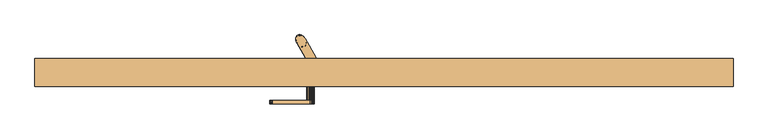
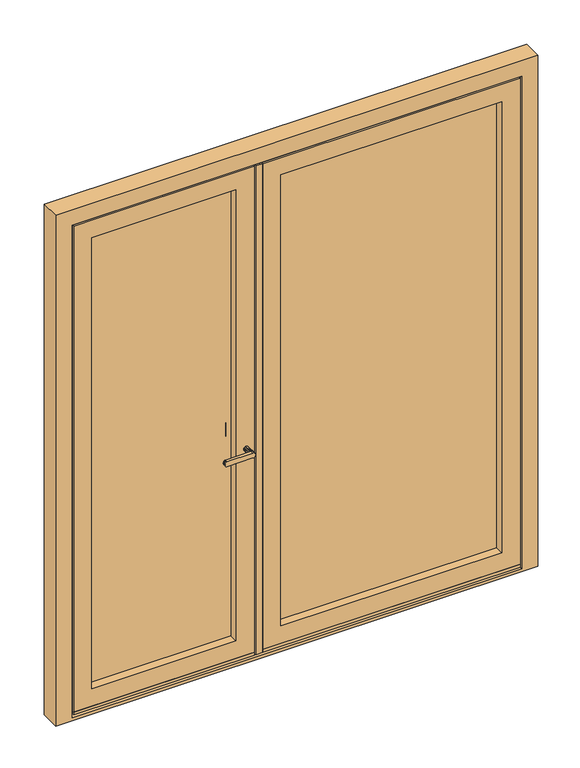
"""IFC4 building model written with IfcOpenShell, lengths in millimetres: door geometry, SAS ENTREE RDC 2x90."""

from ifc_helpers import new_model, si_unit, frame, origin, place, context, project, spatial, polyline, outline, extrude, faceted_brep, source, transform, mapped, element, save


def door_05f745db(model_context):
    return source(origin(), model_context, "Body", "SolidModel", [
        extrude(outline(polyline([(676.0, 206.1225433), (676.0, 214.4225433), (708.0, 214.4225433), (708.0, 206.1225433), (676.0, 206.1225433)])), frame((0.0, 0.0, 176.0160203), z_axis=(0.0, 0.0, 1.0), x_axis=(1.0, 0.0, 0.0)), (0.0, 0.0, 1.0), 2390.9839797),
        extrude(outline(polyline([(599.0, 285.1225433), (599.0, 247.1225433), (-97.0, 247.1225433), (-97.0, 285.1225433), (599.0, 285.1225433)])), frame((0.0, 0.0, 260.0), z_axis=(0.0, 0.0, 1.0), x_axis=(1.0, 0.0, 0.0)), (0.0, 0.0, 1.0), 2237.0),
        faceted_brep([(596.8067219, 372.0896621, 2543.5), (593.3206353, 371.920261, 2543.5), (590.2202405, 370.7551217, 2543.5), (587.6610041, 368.6526691, 2543.5), (585.7712569, 365.718329, 2543.5), (584.6457588, 362.0992414, 2543.5), (584.3409469, 357.9768826, 2543.5), (584.8721059, 353.5579647, 2543.5), (586.212601, 349.0640708, 2543.5), (588.2952144, 344.7205434, 2543.5), (591.0155151, 340.7451853, 2543.5), (594.2370958, 337.3373374, 2543.5), (597.7984131, 334.6678835, 2543.5), (601.5208876, 332.8706811, 2543.5), (605.2178589, 332.0358494, 2543.5), (608.7039455, 332.2052505, 2543.5), (611.8043404, 333.3703898, 2543.5), (614.3635768, 335.4728424, 2543.5), (616.2533239, 338.4071825, 2543.5), (617.3788221, 342.0262701, 2543.5), (617.6836339, 346.148629, 2543.5), (617.152475, 350.5675469, 2543.5), (615.8119798, 355.0614408, 2543.5), (613.7293665, 359.4049681, 2543.5), (611.0090658, 363.3803262, 2543.5), (607.787485, 366.7881741, 2543.5), (604.2261678, 369.4576281, 2543.5), (600.5036932, 371.2548305, 2543.5), (614.3635768, 335.4728424, 213.5), (611.8043404, 333.3703898, 213.5), (608.7039455, 332.2052505, 213.5), (605.2178589, 332.0358494, 213.5), (601.5208876, 332.8706811, 213.5), (597.7984131, 334.6678835, 213.5), (594.2370958, 337.3373374, 213.5), (591.0155151, 340.7451853, 213.5), (588.2952144, 344.7205434, 213.5), (586.212601, 349.0640708, 213.5), (584.8721059, 353.5579647, 213.5), (584.3409469, 357.9768826, 213.5), (584.6457588, 362.0992414, 213.5), (585.7712569, 365.718329, 213.5), (587.6610041, 368.6526691, 213.5), (590.2202405, 370.7551217, 213.5), (593.3206353, 371.920261, 213.5), (596.8067219, 372.0896621, 213.5), (600.5036932, 371.2548305, 213.5), (604.2261678, 369.4576281, 213.5), (607.787485, 366.7881741, 213.5), (611.0090658, 363.3803262, 213.5), (613.7293665, 359.4049681, 213.5), (615.8119798, 355.0614408, 213.5), (617.152475, 350.5675469, 213.5), (617.6836339, 346.148629, 213.5), (617.3788221, 342.0262701, 213.5), (616.2533239, 338.4071825, 213.5), (613.7293665, 359.4049681, 2379.5727096), (598.640293, 371.7963268, 2451.5235539), (613.7293665, 359.4049681, 2461.5363589), (584.3339163, 358.7363125, 2407.8004884), (588.2952144, 344.7205434, 2461.5363535), (584.3996677, 356.8385466, 2472.0238283), (586.6256704, 367.2811894, 2465.9534284), (588.8642379, 369.8155211, 2391.1124582), (613.7293665, 359.4049681, 295.4636493), (587.1783635, 368.0666895, 278.3729614), (591.7119625, 371.4596562, 365.8875345), (595.0260396, 372.1311474, 291.0465648), (605.1826374, 368.8376058, 284.9761741), (603.5720008, 369.8434294, 349.1995188), (585.1058254, 363.9751062, 1479.7028575), (588.2952144, 344.7205434, 1451.3125), (588.2952144, 344.7205434, 1524.125), (591.7615024, 371.4781272, 1649.1392833), (584.4253827, 360.5186738, 1628.7148132), (584.334078, 358.7550105, 1715.8508426), (584.3888278, 360.088523, 315.5847591), (613.7293665, 359.4049681, 2297.6090603), (600.6213593, 371.2126152, 2365.8602076), (603.0202966, 370.1452212, 664.3001), (599.7309419, 371.5084991, 567.5308419), (590.2202405, 370.7551217, 645.7917434), (588.2952144, 344.7205434, 295.4636465), (606.5286319, 367.8475198, 411.1603252), (613.7293665, 359.4049681, 459.3909315), (613.7293665, 359.4049681, 377.4272904), (601.0673114, 371.0440314, 465.8272972), (613.7293665, 359.4049681, 541.3545808), (590.2202405, 370.7551217, 2124.9273045), (584.3775266, 359.9267232, 2110.7348128), (584.6855082, 362.3072796, 2193.7643232), (603.7950843, 369.7152981, 2170.2863632), (613.7293665, 359.4049681, 2215.645411), (613.7293665, 359.4049681, 2151.9840606), (613.7293665, 359.4049681, 2124.9272924), (585.3520852, 364.7024538, 475.9812415), (584.6591139, 354.694127, 482.8464175), (584.334694, 358.303651, 537.3427374), (584.4253999, 356.5280307, 418.4091473), (588.2952144, 344.7205434, 377.4272929), (588.2952144, 344.7205434, 459.3909394), (603.2120449, 370.0427553, 1992.2156081), (592.2675412, 371.6504879, 2031.727744), (602.3734891, 370.4719828, 2079.5682442), (588.2952144, 344.7205434, 2379.5727071), (584.5841108, 355.1778386, 2345.8396982), (584.3335705, 358.4309809, 995.8788217), (588.2952144, 344.7205434, 941.625), (588.2952144, 344.7205434, 951.1728123), (588.2952144, 344.7205434, 1014.4375), (591.9540086, 371.54716, 2207.6010696), (597.8960795, 371.9447388, 2281.0187972), (589.3511741, 370.1914448, 2319.1105363), (613.7293665, 359.4049681, 1197.0637588), (602.7759529, 370.2720743, 1156.0819682), (602.9934599, 370.1593571, 1251.0803702), (584.582294, 361.7342949, 2024.6613669), (588.2952144, 344.7205434, 2088.3227071), (588.2952144, 344.7205434, 2297.6090606), (584.5465078, 361.5057369, 2291.1727426), (588.2952144, 344.7205434, 2215.6454141), (607.3019684, 367.212777, 2256.6272447), (591.3661785, 371.3224467, 459.5869607), (586.5908672, 367.2268264, 412.2815165), (587.6724492, 368.6656057, 559.7384316), (584.3441166, 359.2428061, 623.1372716), (589.6013487, 370.3669845, 806.8664485), (586.2041252, 366.5752593, 755.976985), (584.8398858, 363.0103188, 824.0592485), (588.2952144, 344.7205434, 605.0159394), (602.2571469, 370.5276858, 1583.8584055), (599.2993178, 371.632295, 1483.9365465), (590.4633446, 370.8909961, 1498.9341304), (600.1446668, 371.3777824, 1811.5402594), (613.7293665, 359.4049681, 1779.5637567), (603.1348072, 370.0843389, 1712.0756458), (602.3989472, 370.4596693, 1910.3982928), (591.5594137, 371.4009279, 1950.2220322), (592.9408779, 371.836168, 1884.1615603), (589.5092907, 370.3037066, 1742.5625207), (584.4479081, 360.7395876, 1930.3440776), (613.7293665, 359.4049681, 1524.9183396), (613.7293665, 359.4049681, 1160.0625), (613.7293665, 359.4049681, 1115.1001095), (584.4003028, 356.8302377, 1342.0937793), (584.5346507, 355.536294, 1404.6915272), (585.8787233, 365.9462156, 1391.5634429), (604.9660861, 368.9839076, 1647.3446923), (584.5145473, 355.6940566, 764.7534527), (590.4933488, 370.9071554, 1190.1642517), (589.643066, 370.3951665, 1279.0274359), (591.3305399, 371.3074634, 1365.7002658), (586.2932073, 366.733653, 1330.1284283), (584.4430956, 360.6944514, 1134.9042363), (588.2952144, 344.7205434, 1160.0625), (584.4834985, 361.0462147, 1228.6146246), (601.7106677, 370.7768786, 922.2779045), (589.2705607, 370.1324225, 868.8125416), (587.2668209, 368.1803563, 928.6050736), (590.0899506, 370.6785792, 985.6282314), (586.2866374, 366.7221533, 1049.4347346), (602.3446545, 370.4858754, 1008.143153), (613.7293665, 359.4049681, 1033.1364602), (613.7293665, 359.4049681, 1014.4375), (613.7293665, 359.4049681, 951.1728109), (613.7293665, 359.4049681, 705.2818794), (613.7293665, 359.4049681, 668.6772929), (613.7293665, 359.4049681, 623.3182301), (604.6775207, 369.1734382, 1081.8660814), (591.9516011, 371.5463233, 1101.7395977), (601.0493042, 371.0511019, 782.5539675), (604.2619327, 369.4356496, 851.8765762), (613.7293665, 359.4049681, 787.2455287), (605.7364225, 368.447326, 725.8955845), (608.5057275, 366.121045, 582.3364519), (613.7293665, 359.4049681, 605.0159394), (594.191781, 372.0607339, 718.1476683), (587.3971082, 368.34245, 698.6945405), (584.3402223, 358.0048903, 699.954405), (588.2952144, 344.7205434, 796.0), (588.2952144, 344.7205434, 868.8125), (588.2952144, 344.7205434, 668.6772929), (588.2952144, 344.7205434, 732.3386465), (584.3486499, 359.371308, 905.2187896), (588.2952144, 344.7205434, 869.2091683), (584.4760351, 356.0220371, 1060.2383949), (588.2952144, 344.7205434, 1033.1364563), (588.2952144, 344.7205434, 1087.25), (588.2952144, 344.7205434, 705.2818803), (588.2952144, 344.7205434, 787.2455243), (613.7293665, 359.4049681, 869.2091698), (592.8630267, 371.8171333, 1041.9282644), (599.8249333, 371.4798358, 1347.9657088), (613.7293665, 359.4049681, 1279.0274081), (588.2952144, 344.7205434, 1305.6875), (584.429341, 360.5593943, 1287.1892336), (601.2978793, 370.9515414, 1416.2157627), (613.7293665, 359.4049681, 1360.9910492), (588.2921626, 369.3088022, 1558.5720278), (613.7293665, 359.4049681, 1524.125), (613.7293665, 359.4049681, 1451.3125), (613.7293665, 359.4049681, 1442.9546903), (591.4305867, 371.3491208, 1436.780453), (584.3349235, 358.2847761, 1547.7136117), (588.2952144, 344.7205434, 1596.9375), (588.2952144, 344.7205434, 1378.5), (588.2952144, 344.7205434, 1197.0637524), (588.2952144, 344.7205434, 1232.875), (588.2952144, 344.7205434, 1360.9910486), (588.2952144, 344.7205434, 1279.0273964), (613.7293665, 359.4049681, 1742.5625), (613.7293665, 359.4049681, 1715.9024045), (613.7293665, 359.4049681, 1588.5796918), (586.5281466, 367.1271988, 1849.4762939), (584.5681045, 361.6459468, 1786.6742918), (613.7293665, 359.4049681, 1970.5478216), (613.7293665, 359.4049681, 1843.225109), (584.5008055, 355.8068166, 1851.7812671), (588.2952144, 344.7205434, 1669.75), (588.2952144, 344.7205434, 1715.9024), (588.2952144, 344.7205434, 1742.5625), (588.2952144, 344.7205434, 1815.375), (613.7293665, 359.4049681, 1305.6875), (613.7293665, 359.4049681, 941.625), (613.7293665, 359.4049681, 1232.875), (588.2952144, 344.7205434, 1442.9546926), (588.2952144, 344.7205434, 1524.9183365), (588.2952144, 344.7205434, 1588.579691), (613.7293665, 359.4049681, 1087.25), (613.7293665, 359.4049681, 1378.5), (587.8833985, 368.896825, 2258.8109284), (588.2952144, 344.7205434, 1779.5637545), (588.2952144, 344.7205434, 1961.0), (588.2952144, 344.7205434, 2151.9840606), (613.7293665, 359.4049681, 2034.2091739), (613.7293665, 359.4049681, 2088.3227071), (613.7293665, 359.4049681, 1961.0), (613.7293665, 359.4049681, 1888.1875), (588.2952144, 344.7205434, 1970.5478179), (588.2952144, 344.7205434, 2034.2091724), (588.2952144, 344.7205434, 1888.1875), (588.2952144, 344.7205434, 1843.2251089), (588.2952144, 344.7205434, 2124.9272941), (588.2952144, 344.7205434, 541.3545859), (613.7293665, 359.4049681, 732.3386465), (588.2952144, 344.7205434, 623.3182281), (613.7293665, 359.4049681, 868.8125), (613.7293665, 359.4049681, 796.0), (588.2952144, 344.7205434, 1115.1001084), (613.7293665, 359.4049681, 1669.75), (613.7293665, 359.4049681, 1596.9375), (613.7293665, 359.4049681, 1815.375), (603.3842879, 332.3291847, 2451.5235539), (617.6906646, 345.3891991, 2407.8004884), (617.6249132, 347.286965, 2472.0238283), (615.3989104, 336.8443221, 2465.9534284), (613.160343, 334.3099905, 2391.1124582), (614.8462174, 336.058822, 278.3729614), (610.3126184, 332.6658554, 365.8875345), (606.9985412, 331.9943641, 291.0465648), (596.8419435, 335.2879058, 284.9761741), (598.4525801, 334.2820822, 349.1995188), (616.9187554, 340.1504053, 1479.7028575), (610.2630784, 332.6473843, 1649.1392833), (617.5991982, 343.6068377, 1628.7148132), (617.6905029, 345.370501, 1715.8508426), (617.6357531, 344.0369885, 315.5847591), (601.4032216, 332.9128963, 2365.8602076), (599.0042843, 333.9802903, 664.3001), (602.2936389, 332.6170124, 567.5308419), (611.8043404, 333.3703898, 645.7917434), (595.495949, 336.2779917, 411.1603252), (600.9572695, 333.0814801, 465.8272972), (611.8043404, 333.3703898, 2124.9273045), (617.6470542, 344.1987883, 2110.7348128), (617.3390727, 341.8182319, 2193.7643232), (598.2294965, 334.4102134, 2170.2863632), (616.6724957, 339.4230578, 475.9812415), (617.3654669, 349.4313845, 482.8464175), (617.6898869, 345.8218605, 537.3427374), (617.5991809, 347.5974809, 418.4091473), (598.812536, 334.0827562, 1992.2156081), (609.7570397, 332.4750236, 2031.727744), (599.6510917, 333.6535288, 2079.5682442), (617.44047, 348.9476729, 2345.8396982), (617.6910103, 345.6945306, 995.8788217), (610.0705722, 332.5783516, 2207.6010696), (604.1285014, 332.1807727, 2281.0187972), (612.6734067, 333.9340667, 2319.1105363), (599.248628, 333.8534372, 1156.0819682), (599.0311209, 333.9661544, 1251.0803702), (617.4422869, 342.3912167, 2024.6613669), (617.478073, 342.6197746, 2291.1727426), (594.7226124, 336.9127345, 2256.6272447), (610.6584023, 332.8030648, 459.5869607), (615.4337137, 336.8986852, 412.2815165), (614.3521316, 335.4599058, 559.7384316), (617.6804643, 344.8827054, 623.1372716), (612.4232322, 333.758527, 806.8664485), (615.8204557, 337.5502522, 755.976985), (617.1846951, 341.1151927, 824.0592485), (599.7674339, 333.5978257, 1583.8584055), (602.7252631, 332.4932165, 1483.9365465), (611.5612363, 333.2345154, 1498.9341304), (601.8799141, 332.7477292, 1811.5402594), (598.8897737, 334.0411727, 1712.0756458), (599.6256337, 333.6658422, 1910.3982928), (610.4651671, 332.7245836, 1950.2220322), (609.083703, 332.2893435, 1884.1615603), (612.5152902, 333.8218049, 1742.5625207), (617.5766727, 343.385924, 1930.3440776), (617.624278, 347.2952738, 1342.0937793), (617.4899302, 348.5892175, 1404.6915272), (616.1458576, 338.179296, 1391.5634429), (597.0584947, 335.1416039, 1647.3446923), (617.5100336, 348.4314549, 764.7534527), (611.531232, 333.2183561, 1190.1642517), (612.3815149, 333.730345, 1279.0274359), (610.694041, 332.8180482, 1365.7002658), (615.7313735, 337.3918586, 1330.1284283), (617.5814852, 343.4310601, 1134.9042363), (617.5410824, 343.0792968, 1228.6146246), (600.3139132, 333.3486329, 922.2779045), (612.7540201, 333.993089, 868.8125416), (614.7577599, 335.9451552, 928.6050736), (611.9346303, 333.4469324, 985.6282314), (615.7379434, 337.4033582, 1049.4347346), (599.6799263, 333.6396362, 1008.143153), (617.675931, 344.7542035, 905.2187896), (597.3470602, 334.9520734, 1081.8660814), (610.0729798, 332.5791883, 1101.7395977), (600.9752767, 333.0744096, 782.5539675), (597.7626481, 334.689862, 851.8765762), (596.2881584, 335.6781855, 725.8955845), (593.5188534, 338.0044665, 582.3364519), (607.8327999, 332.0647776, 718.1476683), (614.6274727, 335.7830615, 698.6945405), (617.6843585, 346.1206212, 699.954405), (617.5485457, 348.1034745, 1060.2383949), (609.1615542, 332.3083782, 1041.9282644), (602.1996476, 332.6456757, 1347.9657088), (617.5952398, 343.5661172, 1287.1892336), (600.7267015, 333.1739701, 1416.2157627), (613.7324183, 334.8167093, 1558.5720278), (610.5939942, 332.7763908, 1436.780453), (617.6896573, 345.8407354, 1547.7136117), (615.4964342, 336.9983127, 1849.4762939), (617.4564764, 342.4795647, 1786.6742918), (617.5237753, 348.318695, 1851.7812671), (614.1411824, 335.2286865, 2258.8109284)], [[[0, 1, 2, 3, 4, 5, 6, 7, 8, 9, 10, 11, 12, 13, 14, 15, 16, 17, 18, 19, 20, 21, 22, 23, 24, 25, 26, 27]], [[28, 29, 30, 31, 32, 33, 34, 35, 36, 37, 38, 39, 40, 41, 42, 43, 44, 45, 46, 47, 48, 49, 50, 51, 52, 53, 54, 55]], [[56, 57, 58]], [[59, 60, 61]], [[2, 1, 62]], [[26, 57, 27]], [[24, 58, 25]], [[61, 8, 7]], [[1, 57, 62]], [[3, 62, 4]], [[63, 62, 57]], [[64, 50, 49]], [[24, 23, 58]], [[65, 66, 67]], [[57, 0, 27]], [[48, 47, 68]], [[2, 62, 3]], [[69, 64, 68]], [[44, 67, 45]], [[59, 61, 62]], [[70, 71, 72]], [[73, 74, 75]], [[65, 40, 76]], [[77, 78, 56]], [[79, 80, 81]], [[8, 60, 9]], [[37, 36, 82]], [[83, 84, 85]], [[86, 80, 87]], [[43, 65, 67]], [[83, 85, 69]], [[58, 57, 25]], [[88, 89, 90]], [[46, 67, 68]], [[91, 92, 93, 94]], [[67, 66, 69]], [[43, 42, 65]], [[95, 96, 97]], [[98, 99, 100]], [[68, 49, 48]], [[101, 102, 103]], [[69, 68, 67]], [[5, 62, 61]], [[104, 59, 105]], [[25, 57, 26]], [[57, 1, 0]], [[7, 6, 61]], [[106, 107, 108, 109]], [[90, 110, 88]], [[67, 44, 43]], [[76, 39, 38]], [[62, 63, 59]], [[82, 76, 38]], [[40, 39, 76]], [[78, 111, 112]], [[40, 65, 41]], [[113, 114, 115]], [[46, 45, 67]], [[5, 4, 62]], [[116, 117, 89]], [[105, 118, 104]], [[119, 120, 118]], [[60, 59, 104]], [[119, 105, 112]], [[90, 120, 119]], [[63, 57, 78]], [[91, 110, 121]], [[86, 87, 84]], [[64, 69, 85]], [[122, 66, 123]], [[124, 81, 80]], [[125, 81, 124]], [[126, 127, 128]], [[76, 98, 123]], [[97, 129, 125]], [[57, 56, 78]], [[130, 131, 132]], [[133, 134, 135]], [[77, 121, 78]], [[101, 136, 137]], [[138, 137, 136]], [[73, 75, 139]], [[137, 138, 140]], [[141, 131, 130]], [[114, 113, 142, 143]], [[144, 145, 146]], [[147, 73, 135]], [[127, 148, 128]], [[115, 149, 150]], [[151, 150, 152]], [[153, 154, 155]], [[156, 157, 158]], [[159, 106, 160]], [[161, 162, 163, 164]], [[157, 126, 128]], [[79, 165, 166, 167]], [[114, 168, 169]], [[122, 124, 80]], [[92, 121, 77]], [[170, 171, 172]], [[79, 173, 165]], [[174, 167, 175, 87]], [[79, 167, 174]], [[170, 173, 176]], [[176, 79, 81]], [[157, 156, 171]], [[177, 125, 178]], [[128, 179, 180]], [[177, 176, 81]], [[127, 178, 148]], [[126, 176, 127]], [[122, 80, 86]], [[97, 124, 95]], [[125, 124, 97]], [[178, 125, 181]], [[178, 182, 148]], [[177, 127, 176]], [[161, 156, 159]], [[183, 128, 180]], [[106, 159, 158]], [[183, 180, 184, 107]], [[158, 157, 183]], [[183, 107, 106]], [[143, 168, 114]], [[128, 148, 179]], [[183, 157, 128]], [[185, 109, 186, 187]], [[153, 160, 185]], [[178, 181, 188, 182]], [[148, 182, 189, 179]], [[171, 156, 190]], [[171, 126, 157]], [[176, 126, 170]], [[191, 159, 160]], [[161, 164, 156]], [[149, 114, 169]], [[161, 168, 162]], [[114, 149, 115]], [[192, 115, 150]], [[192, 193, 115]], [[194, 144, 195]], [[196, 197, 192]], [[145, 70, 146]], [[151, 196, 192]], [[132, 70, 198]], [[131, 141, 199, 200, 201]], [[151, 202, 196]], [[169, 153, 149]], [[74, 203, 204]], [[144, 205, 145]], [[149, 155, 150]], [[169, 191, 160]], [[155, 154, 206, 207]], [[153, 155, 149]], [[144, 194, 208, 205]], [[195, 207, 209, 194]], [[146, 152, 144]], [[144, 152, 195]], [[135, 134, 210, 211]], [[73, 130, 198]], [[147, 212, 130]], [[74, 73, 198]], [[73, 139, 135]], [[133, 135, 139]], [[135, 211, 147]], [[213, 133, 139]], [[214, 139, 75]], [[136, 101, 215]], [[136, 216, 133]], [[217, 140, 213]], [[203, 198, 70]], [[74, 218, 75]], [[75, 218, 219, 220]], [[221, 217, 214]], [[192, 197, 222, 193]], [[156, 164, 223, 190]], [[115, 193, 224, 113]], [[72, 203, 70]], [[145, 71, 70]], [[202, 132, 131]], [[145, 205, 225, 71]], [[74, 204, 218]], [[74, 198, 203]], [[203, 72, 226, 227, 204]], [[168, 143, 228, 162]], [[168, 161, 191]], [[151, 152, 146]], [[195, 150, 155]], [[202, 151, 146]], [[150, 151, 192]], [[70, 202, 146]], [[202, 131, 196]], [[131, 201, 196]], [[196, 201, 229, 197]], [[150, 195, 152]], [[195, 155, 207]], [[70, 132, 202]], [[130, 132, 198]], [[119, 112, 230]], [[214, 220, 231, 221]], [[140, 232, 116]], [[140, 116, 137]], [[89, 233, 90]], [[102, 88, 103]], [[116, 89, 88]], [[233, 120, 90]], [[230, 90, 119]], [[88, 91, 103]], [[101, 103, 234]], [[103, 94, 235, 234]], [[91, 88, 110]], [[103, 91, 94]], [[121, 110, 111]], [[136, 215, 236, 237, 216]], [[102, 101, 137]], [[116, 232, 238, 239, 117]], [[138, 133, 213]], [[137, 116, 102]], [[88, 102, 116]], [[185, 160, 106]], [[153, 169, 160]], [[185, 106, 109]], [[153, 185, 187]], [[140, 217, 240]], [[217, 221, 241, 240]], [[140, 240, 232]], [[214, 217, 213]], [[139, 214, 213]], [[214, 75, 220]], [[89, 117, 242, 233]], [[61, 60, 8]], [[5, 61, 6]], [[63, 112, 105]], [[68, 64, 49]], [[46, 68, 47]], [[83, 66, 86]], [[91, 121, 92]], [[78, 121, 111]], [[100, 96, 98]], [[106, 158, 183]], [[123, 98, 95]], [[97, 96, 243]], [[76, 99, 98]], [[122, 123, 95]], [[76, 123, 66]], [[124, 122, 95]], [[66, 122, 86]], [[133, 138, 136]], [[140, 138, 213]], [[63, 105, 59]], [[118, 105, 119]], [[66, 83, 69]], [[84, 83, 86]], [[168, 191, 169]], [[161, 159, 191]], [[38, 37, 82]], [[82, 99, 76]], [[98, 96, 95]], [[243, 96, 100]], [[41, 65, 42]], [[66, 65, 76]], [[78, 112, 63]], [[230, 111, 110]], [[111, 230, 112]], [[90, 230, 110]], [[87, 80, 174]], [[79, 174, 80]], [[176, 173, 79]], [[170, 172, 173]], [[125, 177, 81]], [[173, 172, 244, 165]], [[178, 127, 177]], [[129, 97, 243]], [[125, 129, 245, 181]], [[156, 158, 159]], [[171, 190, 246, 247, 172]], [[171, 170, 126]], [[153, 187, 248, 154]], [[147, 211, 249, 250, 212]], [[212, 141, 130]], [[73, 147, 130]], [[133, 216, 251, 134]], [[101, 234, 215]], [[104, 252, 60]], [[253, 58, 254]], [[16, 15, 255]], [[12, 252, 13]], [[10, 60, 11]], [[254, 22, 21]], [[15, 252, 255]], [[17, 255, 18]], [[256, 255, 252]], [[82, 36, 35]], [[10, 9, 60]], [[257, 258, 259]], [[252, 14, 13]], [[34, 33, 260]], [[16, 255, 17]], [[261, 82, 260]], [[30, 259, 31]], [[253, 254, 255]], [[262, 200, 199]], [[263, 264, 265]], [[257, 54, 266]], [[118, 267, 104]], [[268, 269, 270]], [[22, 58, 23]], [[51, 50, 64]], [[271, 100, 99]], [[272, 269, 243]], [[29, 257, 259]], [[271, 99, 261]], [[60, 252, 11]], [[273, 274, 275]], [[32, 259, 260]], [[276, 120, 233, 242]], [[259, 258, 261]], [[29, 28, 257]], [[277, 278, 279]], [[280, 85, 84]], [[260, 35, 34]], [[281, 282, 283]], [[261, 260, 259]], [[19, 255, 254]], [[56, 253, 284]], [[11, 252, 12]], [[252, 15, 14]], [[21, 20, 254]], [[285, 223, 164, 163]], [[275, 286, 273]], [[259, 30, 29]], [[266, 53, 52]], [[255, 256, 253]], [[64, 266, 52]], [[54, 53, 266]], [[267, 287, 288]], [[54, 257, 55]], [[206, 289, 290]], [[32, 31, 259]], [[19, 18, 255]], [[291, 236, 215, 234, 235]], [[284, 77, 56]], [[292, 92, 77]], [[58, 253, 56]], [[292, 284, 288]], [[275, 92, 292]], [[256, 252, 267]], [[276, 286, 293]], [[272, 243, 100]], [[82, 261, 99]], [[294, 258, 295]], [[296, 270, 269]], [[297, 270, 296]], [[298, 299, 300]], [[266, 280, 295]], [[279, 175, 297]], [[252, 104, 267]], [[301, 302, 303]], [[304, 231, 305]], [[118, 293, 267]], [[281, 306, 307]], [[308, 307, 306]], [[263, 265, 309]], [[307, 308, 310]], [[226, 302, 301]], [[289, 206, 154, 248]], [[311, 312, 313]], [[314, 263, 305]], [[299, 315, 300]], [[290, 316, 317]], [[318, 317, 319]], [[320, 142, 321]], [[322, 323, 324]], [[325, 285, 326]], [[327, 186, 109, 108]], [[323, 328, 324]], [[268, 188, 181, 245]], [[289, 329, 330]], [[294, 296, 269]], [[120, 293, 118]], [[331, 332, 189]], [[268, 333, 188]], [[334, 245, 129, 243]], [[268, 245, 334]], [[331, 333, 335]], [[335, 268, 270]], [[323, 322, 332]], [[336, 297, 337]], [[300, 247, 246]], [[336, 335, 270]], [[299, 337, 315]], [[298, 335, 299]], [[294, 269, 272]], [[279, 296, 277]], [[297, 296, 279]], [[337, 297, 166]], [[337, 244, 315]], [[336, 299, 335]], [[327, 322, 325]], [[328, 300, 246]], [[325, 324, 285]], [[328, 246, 190, 223]], [[323, 298, 300]], [[328, 223, 285]], [[248, 329, 289]], [[300, 315, 247]], [[328, 323, 300]], [[338, 163, 162, 228]], [[320, 326, 338]], [[337, 166, 165, 244]], [[315, 244, 172, 247]], [[332, 322, 184]], [[332, 298, 323]], [[335, 298, 331]], [[339, 325, 326]], [[327, 108, 322]], [[316, 289, 330]], [[327, 329, 186]], [[289, 316, 290]], [[340, 290, 317]], [[340, 209, 290]], [[222, 311, 341]], [[342, 208, 340]], [[312, 262, 313]], [[318, 342, 340]], [[303, 262, 343]], [[302, 226, 72, 71, 225]], [[318, 344, 342]], [[330, 320, 316]], [[264, 345, 250]], [[311, 229, 312]], [[316, 321, 317]], [[330, 339, 326]], [[321, 142, 113, 224]], [[320, 321, 316]], [[311, 222, 197, 229]], [[341, 224, 193, 222]], [[313, 319, 311]], [[311, 319, 341]], [[305, 231, 220, 219]], [[263, 301, 343]], [[314, 227, 301]], [[264, 263, 343]], [[263, 309, 305]], [[304, 305, 309]], [[305, 219, 314]], [[346, 304, 309]], [[347, 309, 265]], [[238, 306, 281]], [[306, 241, 304]], [[348, 310, 346]], [[345, 343, 262]], [[264, 249, 265]], [[265, 249, 211, 210]], [[251, 348, 347]], [[340, 208, 194, 209]], [[322, 108, 107, 184]], [[290, 209, 207, 206]], [[199, 345, 262]], [[312, 200, 262]], [[344, 303, 302]], [[312, 229, 201, 200]], [[264, 250, 249]], [[264, 343, 345]], [[345, 199, 141, 212, 250]], [[329, 248, 187, 186]], [[329, 327, 339]], [[318, 319, 313]], [[341, 317, 321]], [[344, 318, 313]], [[317, 318, 340]], [[262, 344, 313]], [[344, 302, 342]], [[302, 225, 342]], [[342, 225, 205, 208]], [[317, 341, 319]], [[341, 321, 224]], [[262, 303, 344]], [[301, 303, 343]], [[292, 288, 349]], [[347, 210, 134, 251]], [[291, 235, 274]], [[310, 291, 307]], [[274, 93, 275]], [[282, 273, 283]], [[291, 274, 273]], [[93, 92, 275]], [[349, 275, 292]], [[273, 276, 283]], [[282, 281, 307]], [[283, 242, 117, 239]], [[276, 273, 286]], [[283, 276, 242]], [[293, 286, 287]], [[306, 238, 232, 240, 241]], [[283, 239, 281]], [[307, 291, 282]], [[273, 282, 291]], [[236, 291, 310]], [[308, 304, 346]], [[338, 326, 285]], [[320, 330, 326]], [[338, 285, 163]], [[320, 338, 228]], [[310, 348, 237]], [[281, 239, 238]], [[348, 251, 216, 237]], [[310, 237, 236]], [[347, 348, 346]], [[309, 347, 346]], [[347, 265, 210]], [[274, 235, 94, 93]], [[254, 58, 22]], [[19, 254, 20]], [[256, 288, 284]], [[260, 82, 35]], [[32, 260, 33]], [[271, 258, 272]], [[276, 293, 120]], [[267, 293, 287]], [[84, 278, 280]], [[285, 324, 328]], [[295, 280, 277]], [[279, 278, 87]], [[266, 85, 280]], [[294, 295, 277]], [[266, 295, 258]], [[296, 294, 277]], [[258, 294, 272]], [[304, 308, 306]], [[310, 308, 346]], [[256, 284, 253]], [[77, 284, 292]], [[258, 271, 261]], [[100, 271, 272]], [[329, 339, 330]], [[327, 325, 339]], [[52, 51, 64]], [[64, 85, 266]], [[280, 278, 277]], [[87, 278, 84]], [[55, 257, 28]], [[258, 257, 266]], [[267, 288, 256]], [[349, 287, 286]], [[287, 349, 288]], [[275, 349, 286]], [[243, 269, 334]], [[268, 334, 269]], [[335, 333, 268]], [[331, 189, 333]], [[297, 336, 270]], [[333, 189, 182, 188]], [[337, 299, 336]], [[175, 279, 87]], [[297, 175, 167, 166]], [[322, 324, 325]], [[332, 184, 180, 179, 189]], [[332, 331, 298]], [[320, 228, 143, 142]], [[314, 219, 218, 204, 227]], [[227, 226, 301]], [[263, 314, 301]], [[304, 241, 221, 231]]]),
        faceted_brep([(680.5, 214.4225433, 2578.5), (680.5, 214.4225433, 178.5), (680.5, 287.8225433, 178.5), (680.5, 287.8225433, 2578.5), (701.0, 287.8225433, 2599.0), (-199.0, 287.8225433, 2599.0), (-199.0, 287.8225433, 158.0), (701.0, 287.8225433, 158.0), (-178.5, 287.8225433, 2578.5), (-178.5, 287.8225433, 178.5), (-178.5, 214.4225433, 178.5), (-178.5, 214.4225433, 2578.5), (-167.0, 214.4225433, 2567.0), (669.0, 214.4225433, 2567.0), (669.0, 214.4225433, 190.0), (-167.0, 214.4225433, 190.0), (669.0, 206.1225433, 2567.0), (669.0, 206.1225433, 190.0), (-167.0, 206.1225433, 190.0), (-167.0, 206.1225433, 2567.0), (-81.9999695, 206.1225433, 2481.9999695), (583.9999695, 206.1225433, 2481.9999695), (583.9999695, 206.1225433, 275.0000305), (-81.9999695, 206.1225433, 275.0000305), (583.9999695, 247.1225433, 2481.9999695), (583.9999695, 247.1225433, 275.0000305), (-81.9999695, 247.1225433, 275.0000305), (-97.0, 247.1225433, 2497.0), (599.0, 247.1225433, 2497.0), (599.0, 247.1225433, 260.0), (-97.0, 247.1225433, 260.0), (-81.9999695, 247.1225433, 2481.9999695), (599.0, 285.1225433, 2497.0), (599.0, 285.1225433, 260.0), (-97.0, 285.1225433, 260.0), (-97.0, 285.1225433, 2497.0), (-80.0, 285.1225433, 2480.0), (582.0, 285.1225433, 2480.0), (582.0, 285.1225433, 277.0), (-80.0, 285.1225433, 277.0), (582.0, 296.1225433, 2480.0), (582.0, 296.1225433, 277.0), (-80.0, 296.1225433, 277.0), (-199.0, 296.1225433, 2599.0), (701.0, 296.1225433, 2599.0), (701.0, 296.1225433, 158.0), (-199.0, 296.1225433, 158.0), (-80.0, 296.1225433, 2480.0)], [[[0, 1, 2, 3]], [[4, 5, 6, 7], [8, 3, 2, 9]], [[1, 10, 9, 2]], [[0, 11, 10, 1], [12, 13, 14, 15]], [[16, 17, 14, 13]], [[17, 18, 15, 14]], [[16, 19, 18, 17], [20, 21, 22, 23]], [[24, 25, 22, 21]], [[25, 26, 23, 22]], [[27, 28, 29, 30], [24, 31, 26, 25]], [[32, 33, 29, 28]], [[33, 34, 30, 29]], [[32, 35, 34, 33], [36, 37, 38, 39]], [[40, 41, 38, 37]], [[41, 42, 39, 38]], [[43, 44, 45, 46], [40, 47, 42, 41]], [[4, 7, 45, 44]], [[7, 6, 46, 45]], [[10, 11, 8, 9]], [[18, 19, 12, 15]], [[26, 31, 20, 23]], [[34, 35, 27, 30]], [[42, 47, 36, 39]], [[6, 5, 43, 46]], [[11, 0, 3, 8]], [[19, 16, 13, 12]], [[31, 24, 21, 20]], [[35, 32, 28, 27]], [[47, 40, 37, 36]], [[5, 4, 44, 43]]]),
        faceted_brep([(642.5801281, 206.1225433, 1203.102886), (642.9886308, 206.1225433, 1200.0), (642.5801281, 206.1225433, 1196.897114), (641.3824588, 206.1225433, 1194.0056846), (639.4772421, 206.1225433, 1191.5227579), (636.9943154, 206.1225433, 1189.6175412), (634.102886, 206.1225433, 1188.4198719), (631.0, 206.1225433, 1188.0113692), (627.897114, 206.1225433, 1188.4198719), (625.0056846, 206.1225433, 1189.6175412), (622.5227579, 206.1225433, 1191.5227579), (620.6175412, 206.1225433, 1194.0056846), (619.4198719, 206.1225433, 1196.897114), (619.0113692, 206.1225433, 1200.0), (619.4198719, 206.1225433, 1203.102886), (620.6175412, 206.1225433, 1205.9943154), (622.5227579, 206.1225433, 1208.4772421), (625.0056846, 206.1225433, 1210.3824588), (627.897114, 206.1225433, 1211.5801281), (631.0, 206.1225433, 1211.9886308), (634.102886, 206.1225433, 1211.5801281), (636.9943154, 206.1225433, 1210.3824588), (639.4772421, 206.1225433, 1208.4772421), (641.3824588, 206.1225433, 1205.9943154), (631.0, 162.6226608, 1188.0113692), (627.897114, 162.6226608, 1188.4198719), (625.0056846, 162.6226608, 1189.6175412), (622.5227579, 162.6226608, 1191.5227579), (620.6175412, 162.6226608, 1194.0056846), (619.4198719, 162.6226608, 1196.897114), (619.0113692, 162.6226608, 1200.0), (619.4198719, 162.6226608, 1203.102886), (620.6175412, 162.6226608, 1205.9943154), (622.5227579, 162.6226608, 1208.4772421), (625.0056846, 162.6226608, 1210.3824588), (627.897114, 162.6226608, 1211.5801281), (631.0, 162.6226608, 1211.9886308), (631.0, 150.1225738, 1211.9886308), (634.102886, 150.1225738, 1211.5801281), (636.9943154, 150.1225738, 1210.3824588), (639.4772421, 150.1225738, 1208.4772421), (641.3824588, 150.1225738, 1205.9943154), (642.5801281, 150.1225738, 1203.102886), (642.9886308, 150.1225738, 1200.0), (642.5801281, 150.1225738, 1196.897114), (641.3824588, 150.1225738, 1194.0056846), (639.4772421, 150.1225738, 1191.5227579), (636.9943154, 150.1225738, 1189.6175412), (634.102886, 150.1225738, 1188.4198719), (631.0, 150.1225738, 1188.0113692), (509.3382074, 150.1225738, 1211.9886308), (507.7960029, 150.1225738, 1211.7582726), (506.3130644, 150.1225738, 1211.0760506), (504.9463805, 150.1225738, 1209.9681822), (503.7484721, 150.1225738, 1208.4772421), (502.765374, 150.1225738, 1206.6605264), (502.0348662, 150.1225738, 1204.5878504), (501.5850218, 150.1225738, 1202.3388658), (501.4331279, 150.1225738, 1200.0), (501.5850218, 150.1225738, 1197.6611342), (502.0348662, 150.1225738, 1195.4121496), (502.765374, 150.1225738, 1193.3394736), (503.7484721, 150.1225738, 1191.5227579), (504.9463805, 150.1225738, 1190.0318178), (506.3130644, 150.1225738, 1188.9239494), (507.7960029, 150.1225738, 1188.2417274), (509.3382074, 150.1225738, 1188.0113692), (501.5850218, 162.6226608, 1197.6611342), (501.4331279, 162.6226608, 1200.0), (501.5850218, 162.6226608, 1202.3388658), (502.0348662, 162.6226608, 1204.5878504), (502.765374, 162.6226608, 1206.6605264), (503.7484721, 162.6226608, 1208.4772421), (504.9463805, 162.6226608, 1209.9681822), (506.3130644, 162.6226608, 1211.0760506), (507.7960029, 162.6226608, 1211.7582726), (509.3382074, 162.6226608, 1211.9886308), (509.3382074, 162.6226608, 1188.0113692), (507.7960029, 162.6226608, 1188.2417274), (506.3130644, 162.6226608, 1188.9239494), (504.9463805, 162.6226608, 1190.0318178), (503.7484721, 162.6226608, 1191.5227579), (502.765374, 162.6226608, 1193.3394736), (502.0348662, 162.6226608, 1195.4121496), (509.3382074, 157.1982032, 1188.0113692), (505.6117788, 156.3726193, 1189.4269715), (503.2274983, 156.3726175, 1192.3944932), (501.773518, 156.3726173, 1196.5198842), (502.3665497, 156.3726173, 1205.6514014), (501.471193, 156.3726174, 1201.1750915), (504.323278, 156.3726173, 1209.2673369), (507.0434839, 156.3726173, 1211.4724044), (509.3382074, 156.3726173, 1211.9886308)], [[[0, 1, 2, 3, 4, 5, 6, 7, 8, 9, 10, 11, 12, 13, 14, 15, 16, 17, 18, 19, 20, 21, 22, 23]], [[7, 24, 25, 8]], [[8, 25, 26, 9]], [[11, 10, 27, 28]], [[27, 10, 9, 26]], [[12, 11, 28, 29]], [[12, 29, 30, 13]], [[13, 30, 31, 14]], [[14, 31, 32, 15]], [[17, 16, 33, 34]], [[33, 16, 15, 32]], [[18, 17, 34, 35]], [[18, 35, 36, 19]], [[19, 36, 37, 38, 20]], [[20, 38, 39, 21]], [[23, 22, 40, 41]], [[40, 22, 21, 39]], [[0, 23, 41, 42]], [[0, 42, 43, 1]], [[1, 43, 44, 2]], [[2, 44, 45, 3]], [[5, 4, 46, 47]], [[46, 4, 3, 45]], [[6, 5, 47, 48]], [[6, 48, 49, 24, 7]], [[44, 43, 42, 41, 40, 39, 38, 37, 50, 51, 52, 53, 54, 55, 56, 57, 58, 59, 60, 61, 62, 63, 64, 65, 66, 49, 48, 47, 46, 45]], [[67, 68, 69, 70, 71, 72, 73, 74, 75, 76, 36, 35, 34, 33, 32, 31, 30, 29, 28, 27, 26, 25, 24, 77, 78, 79, 80, 81, 82, 83]], [[24, 49, 66, 84, 77]], [[65, 64, 85]], [[86, 85, 63]], [[82, 87, 83]], [[80, 86, 81]], [[69, 88, 70]], [[84, 85, 78]], [[87, 60, 59]], [[89, 57, 56]], [[60, 87, 86]], [[73, 90, 91, 74]], [[62, 61, 86]], [[90, 72, 71, 88]], [[89, 87, 58]], [[79, 85, 80]], [[78, 77, 84]], [[65, 84, 66]], [[79, 78, 85]], [[87, 59, 58]], [[63, 85, 64]], [[61, 60, 86]], [[63, 62, 86]], [[81, 86, 82]], [[80, 85, 86]], [[75, 92, 76]], [[51, 50, 92]], [[88, 55, 54, 90]], [[82, 86, 87]], [[84, 65, 85]], [[67, 83, 87]], [[53, 52, 91, 90]], [[67, 87, 89]], [[88, 56, 55]], [[56, 88, 89]], [[52, 51, 91]], [[90, 54, 53]], [[68, 67, 89]], [[68, 89, 69]], [[69, 89, 88]], [[70, 88, 71]], [[51, 92, 91]], [[90, 73, 72]], [[74, 91, 75]], [[91, 92, 75]], [[89, 58, 57]], [[37, 36, 76, 92, 50]]]),
        extrude(outline(polyline([(669.0, 206.1225433), (-167.0, 206.1225433), (-167.0, 214.4225433), (669.0, 214.4225433), (669.0, 206.1225433)])), frame((0.0, 0.0, 176.0), z_axis=(0.0, 0.0, 1.0), x_axis=(1.0, 0.0, 0.0)), (0.0, 0.0, 1.0), 14.0),
        faceted_brep([(647.9561005, 300.1225433, 243.5), (614.0438995, 300.1225433, 243.5), (614.0438995, 296.1225433, 243.5), (647.9561005, 296.1225433, 243.5), (647.9561005, 300.1225433, 213.5), (614.0438995, 300.1225433, 213.5), (614.0438995, 300.1225433, 209.5), (614.0438995, 296.1225433, 209.5), (647.9561005, 296.1225433, 209.5), (647.9561005, 300.1225433, 209.5), (593.3206375, 371.9202614, 213.5), (590.2202421, 370.7551226, 213.5), (587.6610052, 368.6526703, 213.5), (585.7712575, 365.7183303, 213.5), (584.645759, 362.0992427, 213.5), (584.3409469, 357.9768836, 213.5), (584.8721057, 353.5579654, 213.5), (586.2126009, 349.0640711, 213.5), (588.2952144, 344.7205434, 213.5), (613.7293692, 359.4049634, 213.5), (611.0090689, 363.3803224, 213.5), (607.7874883, 366.7881712, 213.5), (604.226171, 369.4576261, 213.5), (600.5036962, 371.2548294, 213.5), (596.8067245, 372.0896618, 213.5), (588.2952144, 344.7205434, 209.5), (586.2126009, 349.0640711, 209.5), (584.8721057, 353.5579654, 209.5), (584.3409469, 357.9768836, 209.5), (584.645759, 362.0992427, 209.5), (585.7712575, 365.7183303, 209.5), (587.6610052, 368.6526703, 209.5), (590.2202421, 370.7551226, 209.5), (593.3206375, 371.9202614, 209.5), (596.8067245, 372.0896618, 209.5), (600.5036962, 371.2548294, 209.5), (604.226171, 369.4576261, 209.5), (607.7874883, 366.7881712, 209.5), (611.0090689, 363.3803224, 209.5), (613.7293692, 359.4049634, 209.5), (613.7293692, 359.4049634, 211.9099144), (588.2952144, 344.7205434, 211.0900857), (586.6256711, 367.2811904, 211.5), (598.6402947, 371.7963264, 211.5), (584.3554423, 357.5694373, 211.5)], [[[0, 1, 2, 3]], [[1, 0, 4, 5]], [[5, 6, 7, 2, 1]], [[2, 7, 8, 3]], [[4, 0, 3, 8, 9]], [[10, 11, 12, 13, 14, 15, 16, 17, 18, 5, 4, 19, 20, 21, 22, 23, 24]], [[9, 8, 7, 6, 25, 26, 27, 28, 29, 30, 31, 32, 33, 34, 35, 36, 37, 38, 39]], [[4, 9, 39, 40, 19]], [[6, 5, 18, 41, 25]], [[20, 19, 40]], [[40, 39, 38]], [[12, 42, 13]], [[40, 37, 43]], [[38, 37, 40]], [[35, 34, 43]], [[21, 43, 22]], [[23, 43, 24]], [[43, 33, 32]], [[26, 25, 41]], [[41, 18, 17]], [[35, 43, 36]], [[40, 21, 20]], [[43, 34, 33]], [[42, 30, 29]], [[43, 37, 36]], [[44, 41, 17]], [[43, 23, 22]], [[43, 10, 24]], [[43, 21, 40]], [[10, 43, 11]], [[42, 43, 32]], [[42, 31, 30]], [[28, 44, 29]], [[41, 27, 26]], [[41, 44, 27]], [[27, 44, 28]], [[17, 16, 44]], [[11, 43, 42]], [[31, 42, 32]], [[12, 11, 42]], [[13, 42, 14]], [[14, 42, 44]], [[44, 42, 29]], [[44, 15, 14]], [[44, 16, 15]]]),
        faceted_brep([(1814.2692204, 247.1225433, 2481.9999695), (1814.2692204, 247.1225433, 275.0000305), (1814.2692204, 206.1225433, 275.0000305), (1814.2692204, 206.1225433, 2481.9999695), (1899.2692509, 206.1225433, 2567.0), (708.0, 206.1225433, 2567.0), (708.0, 206.1225433, 190.0), (1899.2692509, 206.1225433, 190.0), (793.0000305, 206.1225433, 275.0000305), (793.0000305, 206.1225433, 2481.9999695), (793.0000305, 247.1225433, 275.0000305), (1829.2692509, 247.1225433, 260.0), (778.0, 247.1225433, 260.0), (778.0, 247.1225433, 2497.0), (1829.2692509, 247.1225433, 2497.0), (793.0000305, 247.1225433, 2481.9999695), (1829.2692509, 285.1225433, 2497.0), (1829.2692509, 285.1225433, 260.0), (778.0, 285.1225433, 260.0), (778.0, 285.1225433, 2497.0), (1812.2692509, 285.1225433, 277.0), (795.0, 285.1225433, 277.0), (795.0, 285.1225433, 2480.0), (1812.2692509, 285.1225433, 2480.0), (1812.2692509, 296.1225433, 2480.0), (1812.2692509, 296.1225433, 277.0), (795.0, 296.1225433, 277.0), (1931.2692509, 296.1225433, 158.0), (708.0, 296.1225433, 158.0), (708.0, 296.1225433, 2599.0), (1931.2692509, 296.1225433, 2599.0), (795.0, 296.1225433, 2480.0), (1931.2692509, 287.8225433, 2599.0), (1931.2692509, 287.8225433, 158.0), (708.0, 287.8225433, 158.0), (708.0, 287.8225433, 2599.0), (708.0, 287.8225433, 2578.5), (1910.7692509, 287.8225433, 2578.5), (1910.7692509, 287.8225433, 178.5), (708.0, 287.8225433, 178.5), (1910.7692509, 214.4225433, 2578.5), (1910.7692509, 214.4225433, 178.5), (696.5, 214.4225433, 178.5), (696.5, 287.8225433, 178.5), (696.5, 214.4225433, 2578.5), (1899.2692509, 214.4225433, 190.0), (708.0, 214.4225433, 190.0), (708.0, 214.4225433, 2567.0), (1899.2692509, 214.4225433, 2567.0), (696.5, 287.8225433, 2578.5)], [[[0, 1, 2, 3]], [[4, 5, 6, 7], [2, 8, 9, 3]], [[1, 10, 8, 2]], [[11, 12, 13, 14], [0, 15, 10, 1]], [[16, 17, 11, 14]], [[17, 18, 12, 11]], [[16, 19, 18, 17], [20, 21, 22, 23]], [[24, 25, 20, 23]], [[25, 26, 21, 20]], [[27, 28, 29, 30], [24, 31, 26, 25]], [[32, 33, 27, 30]], [[33, 34, 28, 27]], [[32, 35, 36, 37, 38, 39, 34, 33]], [[40, 41, 38, 37]], [[41, 42, 43, 39, 38]], [[40, 44, 42, 41], [45, 46, 47, 48]], [[4, 7, 45, 48]], [[7, 6, 46, 45]], [[10, 15, 9, 8]], [[18, 19, 13, 12]], [[26, 31, 22, 21]], [[42, 44, 49, 43]], [[3, 9, 15, 0]], [[14, 13, 19, 16]], [[23, 22, 31, 24]], [[30, 29, 35, 32]], [[37, 36, 49, 44, 40]], [[48, 47, 5, 4]], [[36, 35, 29, 28, 34, 39]], [[39, 43, 49, 36]], [[6, 5, 47, 46]]]),
        faceted_brep([(-174.0, 206.1225433, 2574.0), (-174.0, 206.1225433, 165.0072496), (-174.0, 214.4225433, 167.8651688), (-174.0, 214.4225433, 2574.0), (-194.5, 214.4225433, 167.8651688), (-194.5, 214.4225433, 2594.5), (1926.7692509, 214.4225433, 2594.5), (1926.7692509, 214.4225433, 167.8651688), (1906.2692509, 214.4225433, 167.8651688), (1906.2692509, 214.4225433, 2574.0), (-194.5, 220.6225433, 170.0), (-194.5, 228.1225433, 170.0), (-194.5, 228.1225433, 164.3), (-194.5, 287.8225433, 164.3), (-194.5, 287.8225433, 2594.5), (-206.0, 296.1218798, 150.0), (-206.0, 296.1218798, 2606.0), (-206.0, 287.8225433, 2606.0), (-206.0, 287.8225433, 150.0), (-250.0, 296.1218798, 150.0), (-250.0, 296.1218798, 2650.0), (1982.2692509, 296.1218798, 2650.0), (1982.2692509, 296.1218798, 150.0), (1938.2692509, 296.1218798, 150.0), (1938.2692509, 296.1218798, 2606.0), (1906.2692509, 206.1225433, 165.0072496), (1906.2692509, 206.1225433, 2574.0), (1938.2692509, 287.8225433, 150.0), (1938.2692509, 287.8225433, 2606.0), (1926.7692509, 287.8225433, 2594.5), (1926.7692509, 287.8225433, 164.3), (1926.7692509, 228.1225433, 164.3), (1926.7692509, 228.1225433, 170.0), (1926.7692509, 220.6225433, 170.0), (-250.0, 206.1225433, 2650.0), (1982.2692509, 206.1225433, 2650.0), (-250.0, 206.1225433, 150.0), (1982.2692509, 206.1225433, 150.0)], [[[0, 1, 2, 3]], [[3, 2, 4, 5, 6, 7, 8, 9]], [[5, 4, 10, 11, 12, 13, 14]], [[15, 16, 17, 18]], [[19, 20, 21, 22, 23, 24, 16, 15]], [[9, 8, 25, 26]], [[24, 23, 27, 28]], [[29, 30, 31, 32, 33, 7, 6]], [[26, 0, 3, 9]], [[28, 17, 16, 24]], [[21, 20, 34, 35]], [[5, 14, 29, 6]], [[19, 36, 34, 20]], [[35, 37, 22, 21]], [[34, 36, 37, 35], [26, 25, 1, 0]], [[18, 27, 23, 22, 37, 36, 19, 15]], [[10, 4, 2, 1, 25, 8, 7, 33]], [[28, 27, 18, 17], [13, 30, 29, 14]], [[31, 30, 13, 12]], [[12, 11, 32, 31]], [[11, 10, 33, 32]]]),
        faceted_brep([(614.0438995, 300.1225433, 2513.5), (647.9561005, 300.1225433, 2513.5), (647.9561005, 296.1225433, 2513.5), (614.0438995, 296.1225433, 2513.5), (647.9561005, 300.1225433, 2543.5), (614.0438995, 300.1225433, 2543.5), (614.0438995, 296.1225433, 2547.5), (614.0438995, 300.1225433, 2547.5), (647.9561005, 296.1225433, 2547.5), (647.9561005, 300.1225433, 2547.5), (613.7293665, 359.4049681, 2543.5), (588.2952144, 344.7205434, 2543.5), (586.212601, 349.0640708, 2543.5), (584.8721059, 353.5579647, 2543.5), (584.3409469, 357.9768826, 2543.5), (584.6457588, 362.0992414, 2543.5), (585.7712569, 365.718329, 2543.5), (587.6610041, 368.6526691, 2543.5), (590.2202405, 370.7551217, 2543.5), (593.3206353, 371.920261, 2543.5), (596.8067219, 372.0896621, 2543.5), (600.5036932, 371.2548305, 2543.5), (604.2261678, 369.4576281, 2543.5), (607.787485, 366.7881741, 2543.5), (611.0090658, 363.3803262, 2543.5), (596.8067219, 372.0896621, 2547.5), (593.3206353, 371.920261, 2547.5), (590.2202405, 370.7551217, 2547.5), (587.6610041, 368.6526691, 2547.5), (585.7712569, 365.718329, 2547.5), (584.6457588, 362.0992414, 2547.5), (584.3409469, 357.9768826, 2547.5), (584.8721059, 353.5579647, 2547.5), (586.212601, 349.0640708, 2547.5), (588.2952144, 344.7205434, 2547.5), (613.7293665, 359.4049681, 2547.5), (611.0090658, 363.3803262, 2547.5), (607.787485, 366.7881741, 2547.5), (604.2261678, 369.4576281, 2547.5), (600.5036932, 371.2548305, 2547.5), (613.7293665, 359.4049681, 2545.9099144), (588.2952144, 344.7205434, 2545.0900857), (586.6256703, 367.2811891, 2545.5), (598.6402919, 371.7963271, 2545.5), (584.3554423, 357.5694363, 2545.5)], [[[0, 1, 2, 3]], [[4, 1, 0, 5]], [[5, 0, 3, 6, 7]], [[6, 3, 2, 8]], [[4, 9, 8, 2, 1]], [[10, 4, 5, 11, 12, 13, 14, 15, 16, 17, 18, 19, 20, 21, 22, 23, 24]], [[25, 26, 27, 28, 29, 30, 31, 32, 33, 34, 7, 6, 8, 9, 35, 36, 37, 38, 39]], [[9, 4, 10, 40, 35]], [[7, 34, 41, 11, 5]], [[36, 35, 40]], [[40, 10, 24]], [[28, 42, 29]], [[40, 23, 43]], [[24, 23, 40]], [[21, 20, 43]], [[37, 43, 38]], [[39, 43, 25]], [[43, 19, 18]], [[12, 11, 41]], [[41, 34, 33]], [[21, 43, 22]], [[40, 37, 36]], [[43, 20, 19]], [[42, 16, 15]], [[43, 23, 22]], [[44, 41, 33]], [[43, 39, 38]], [[43, 26, 25]], [[43, 37, 40]], [[26, 43, 27]], [[42, 43, 18]], [[42, 17, 16]], [[14, 44, 15]], [[41, 13, 12]], [[41, 44, 13]], [[13, 44, 14]], [[33, 32, 44]], [[27, 43, 42]], [[17, 42, 18]], [[28, 27, 42]], [[29, 42, 30]], [[30, 42, 44]], [[44, 42, 15]], [[44, 31, 30]], [[44, 32, 31]]]),
        extrude(outline(polyline([(1899.2692509, 206.1225433), (708.0, 206.1225433), (708.0, 214.4225433), (1899.2692509, 214.4225433), (1899.2692509, 206.1225433)])), frame((0.0, 0.0, 176.0160203), z_axis=(0.0, 0.0, 1.0), x_axis=(1.0, 0.0, 0.0)), (0.0, 0.0, 1.0), 13.9839797),
        extrude(outline(polyline([(778.0, 247.1225433), (778.0, 285.1225433), (1829.2692509, 285.1225433), (1829.2692509, 247.1225433), (778.0, 247.1225433)])), frame((0.0, 0.0, 260.0), z_axis=(0.0, 0.0, 1.0), x_axis=(1.0, 0.0, 0.0)), (0.0, 0.0, 1.0), 2237.0),
    ])


if __name__ == "__main__":
    model = new_model("IFC4")
    model_context = context("Model", 3, world=origin())
    ifc_project = project(units=[si_unit("LENGTHUNIT", "METRE", prefix="MILLI")], contexts=[model_context])
    site = spatial("IfcSite", under=ifc_project)
    building = spatial("IfcBuilding", under=site)
    placement = place(None, origin())
    door_shape = door_05f745db(model_context)
    element("IfcDoor", 1, ObjectType="SAS ENTREE RDC 2x90", at=placement, inside=building, context=model_context, shape_type="MappedRepresentation", body=[
        mapped(door_shape, transform((0.0, 0.0, 0.0), x_axis=(1.0, 0.0, 0.0), y_axis=(0.0, 1.0, 0.0), z_axis=(0.0, 0.0, 1.0))),
    ])
    save(model, "model.ifc")
